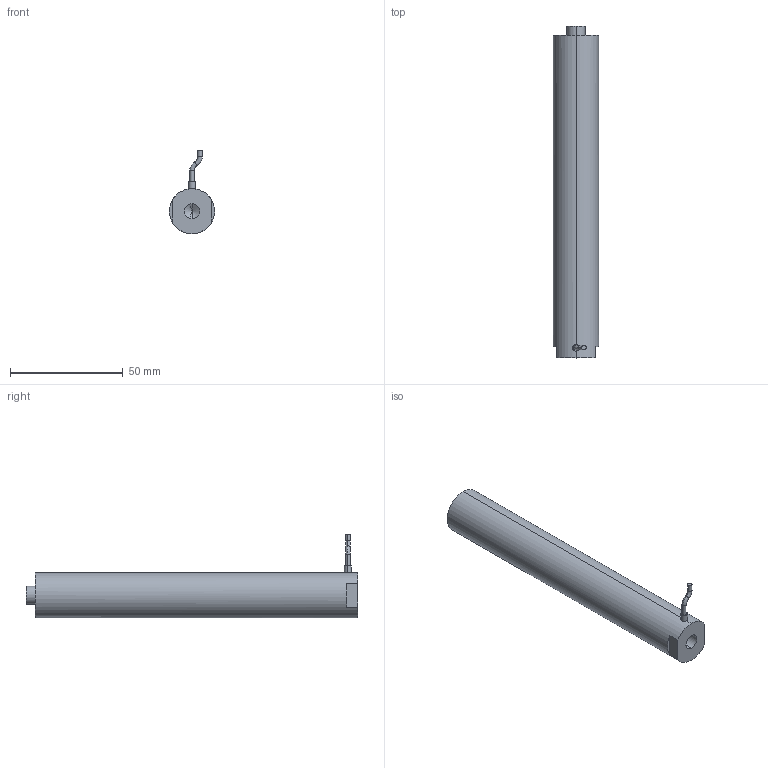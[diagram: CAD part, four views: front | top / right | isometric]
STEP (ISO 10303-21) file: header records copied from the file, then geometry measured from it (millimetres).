
FILE_DESCRIPTION (( 'STEP AP203' ), '1' );
FILE_NAME ('ﾆｽﾍｷﾊｽ140VS20.STEP', '2021-07-08T05:39:34', ( 'ﾎ｢ﾈ橆ﾃｻｧ' ), ( 'ﾎ｢ﾈ晥ｫﾋｾ' ), 'SwSTEP 2.0', 'SolidWorks 2016', '' );
FILE_SCHEMA (( 'CONFIG_CONTROL_DESIGN' ));
Length unit declared in the file: millimetre
Products named in the file (1): ƽͷʽ140VS20
Bounding box: 20 x 147 x 37.06 mm (x, y, z)
Volume: 44673 mm3; surface area: 10073.2 mm2
Topology: 1 solids, 1 shells, 940 faces, 2545 edges, 1691 vertices
Faces by surface type: bspline 513, plane 316, cylinder 105, torus 4, cone 2
Entity records: 44683 total; most frequent: CARTESIAN_POINT 25583, ORIENTED_EDGE 5078, EDGE_CURVE 2539, DIRECTION 1970, B_SPLINE_CURVE_WITH_KNOTS 1699, VERTEX_POINT 1689, EDGE_LOOP 1028, FACE_OUTER_BOUND 940
